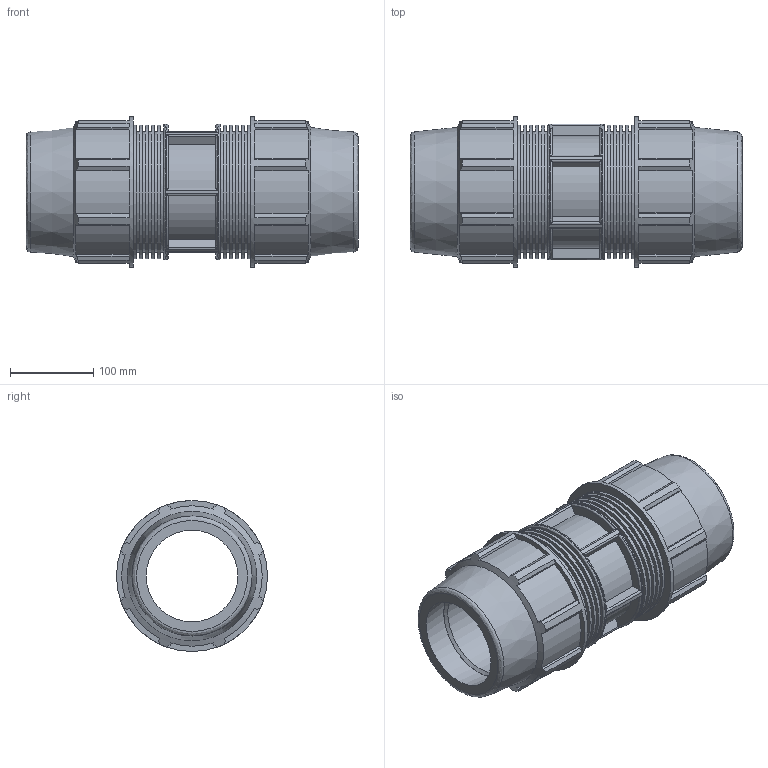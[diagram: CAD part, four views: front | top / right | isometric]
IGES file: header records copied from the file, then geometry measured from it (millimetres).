
Global section: file name: 876100110.ipt; native system: Autodesk Inventor 2015; preprocessor: unknown; author: KIM; date: 20170608.042740; units: millimetre
Bounding box: 398 x 181 x 181 mm (x, y, z)
Volume: 3874694.8 mm3; surface area: 467962.4 mm2
Topology: 1 solids, 1 shells, 212 faces, 551 edges, 370 vertices
Faces by surface type: plane 130, cylinder 57, revolution 21, cone 4
Full cylindrical faces by diameter (mm): 144.8 x10, 159.642 x10, 162.9 x1, 181 x2
